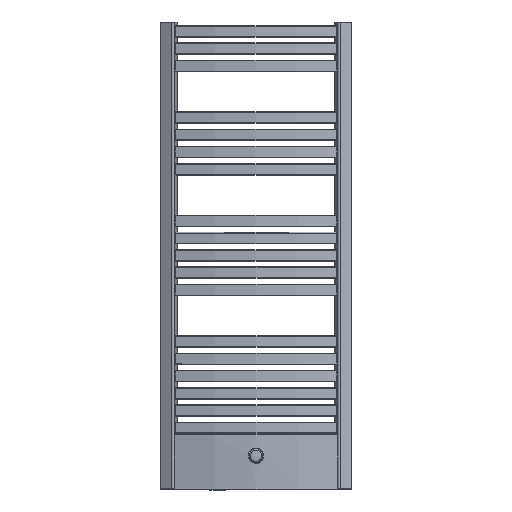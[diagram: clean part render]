
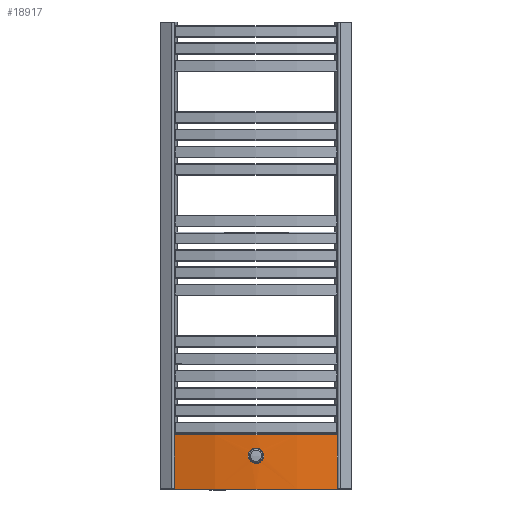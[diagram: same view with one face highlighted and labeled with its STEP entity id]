
A CAD part, front view. The second image highlights one B-rep face of the part: STEP entity #18917.
In plain terms, the highlighted cylindrical face has radius 741 mm (diameter 1482 mm), a partial arc.
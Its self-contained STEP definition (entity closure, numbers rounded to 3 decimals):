
#16507=CARTESIAN_POINT('',(212.002,-31.022,142.));
#16508=VERTEX_POINT('',#16507);
#16671=CARTESIAN_POINT('',(-212.004,-31.021,142.));
#16672=VERTEX_POINT('',#16671);
#16690=CARTESIAN_POINT('',(-212.004,-31.021,0.));
#16691=VERTEX_POINT('',#16690);
#16699=CARTESIAN_POINT('',(-212.004,-31.021,0.));
#16700=DIRECTION('',(0.0,0.0,1.0));
#16701=VECTOR('',#16700,142.);
#16702=LINE('',#16699,#16701);
#16703=EDGE_CURVE('',#16691,#16672,#16702,.T.);
#16714=CARTESIAN_POINT('',(212.002,-31.022,0.));
#16715=VERTEX_POINT('',#16714);
#16716=CARTESIAN_POINT('',(212.002,-31.022,0.));
#16717=DIRECTION('',(0.0,0.0,1.0));
#16718=VECTOR('',#16717,142.);
#16719=LINE('',#16716,#16718);
#16720=EDGE_CURVE('',#16715,#16508,#16719,.T.);
#16877=CARTESIAN_POINT('',(0.,679.004,142.));
#16878=DIRECTION('',(0.,0.,1.0));
#16879=DIRECTION('',(0.,-1.,0.));
#16880=AXIS2_PLACEMENT_3D('',#16877,#16878,#16879);
#16881=CIRCLE('',#16880,741.);
#16882=EDGE_CURVE('',#16672,#16508,#16881,.T.);
#17114=CARTESIAN_POINT('',(0.,679.004,0.));
#17115=DIRECTION('',(0.,0.,-1.0));
#17116=DIRECTION('',(0.,-1.,0.));
#17117=AXIS2_PLACEMENT_3D('',#17114,#17115,#17116);
#17118=CIRCLE('',#17117,741.);
#17119=EDGE_CURVE('',#16715,#16691,#17118,.T.);
#18833=CARTESIAN_POINT('',(0.,679.004,0.));
#18834=DIRECTION('',(0.,0.,1.0));
#18835=DIRECTION('',(0.286,-0.958,0.));
#18836=AXIS2_PLACEMENT_3D('',#18833,#18834,#18835);
#18837=CYLINDRICAL_SURFACE('',#18836,741.);
#18838=ORIENTED_EDGE('',*,*,#17119,.F.);
#18839=ORIENTED_EDGE('',*,*,#16720,.T.);
#18840=ORIENTED_EDGE('',*,*,#16882,.F.);
#18841=ORIENTED_EDGE('',*,*,#16703,.F.);
#18842=EDGE_LOOP('',(#18838,#18839,#18840,#18841));
#18843=FACE_OUTER_BOUND('',#18842,.T.);
#18844=CARTESIAN_POINT('',(-19.92,-61.728,87.5));
#18845=VERTEX_POINT('',#18844);
#18846=CARTESIAN_POINT('',(-19.92,-61.728,87.5));
#18847=CARTESIAN_POINT('',(-19.92,-61.728,88.751));
#18848=CARTESIAN_POINT('',(-19.8,-61.732,90.045));
#18849=CARTESIAN_POINT('',(-19.297,-61.745,92.619));
#18850=CARTESIAN_POINT('',(-18.913,-61.755,93.899));
#18851=CARTESIAN_POINT('',(-17.897,-61.78,96.355));
#18852=CARTESIAN_POINT('',(-17.265,-61.795,97.532));
#18853=CARTESIAN_POINT('',(-15.803,-61.828,99.71));
#18854=CARTESIAN_POINT('',(-14.974,-61.845,100.71));
#18855=CARTESIAN_POINT('',(-13.206,-61.879,102.481));
#18856=CARTESIAN_POINT('',(-12.206,-61.896,103.312));
#18857=CARTESIAN_POINT('',(-10.031,-61.929,104.777));
#18858=CARTESIAN_POINT('',(-8.854,-61.944,105.411));
#18859=CARTESIAN_POINT('',(-6.399,-61.97,106.429));
#18860=CARTESIAN_POINT('',(-5.119,-61.98,106.815));
#18861=CARTESIAN_POINT('',(-2.545,-61.993,107.32));
#18862=CARTESIAN_POINT('',(-1.251,-61.996,107.44));
#18863=CARTESIAN_POINT('',(1.251,-61.996,107.44));
#18864=CARTESIAN_POINT('',(2.545,-61.993,107.32));
#18865=CARTESIAN_POINT('',(5.119,-61.98,106.815));
#18866=CARTESIAN_POINT('',(6.399,-61.97,106.429));
#18867=CARTESIAN_POINT('',(8.854,-61.944,105.411));
#18868=CARTESIAN_POINT('',(10.031,-61.929,104.777));
#18869=CARTESIAN_POINT('',(12.206,-61.896,103.312));
#18870=CARTESIAN_POINT('',(13.206,-61.879,102.481));
#18871=CARTESIAN_POINT('',(14.974,-61.845,100.71));
#18872=CARTESIAN_POINT('',(15.803,-61.828,99.71));
#18873=CARTESIAN_POINT('',(17.265,-61.795,97.532));
#18874=CARTESIAN_POINT('',(17.897,-61.78,96.355));
#18875=CARTESIAN_POINT('',(18.913,-61.755,93.899));
#18876=CARTESIAN_POINT('',(19.297,-61.745,92.619));
#18877=CARTESIAN_POINT('',(19.8,-61.732,90.045));
#18878=CARTESIAN_POINT('',(19.92,-61.728,88.751));
#18879=CARTESIAN_POINT('',(19.92,-61.728,86.249));
#18880=CARTESIAN_POINT('',(19.8,-61.732,84.955));
#18881=CARTESIAN_POINT('',(19.297,-61.745,82.381));
#18882=CARTESIAN_POINT('',(18.913,-61.755,81.101));
#18883=CARTESIAN_POINT('',(17.897,-61.78,78.645));
#18884=CARTESIAN_POINT('',(17.265,-61.795,77.468));
#18885=CARTESIAN_POINT('',(15.803,-61.828,75.29));
#18886=CARTESIAN_POINT('',(14.974,-61.845,74.29));
#18887=CARTESIAN_POINT('',(13.206,-61.879,72.519));
#18888=CARTESIAN_POINT('',(12.206,-61.896,71.688));
#18889=CARTESIAN_POINT('',(10.031,-61.929,70.223));
#18890=CARTESIAN_POINT('',(8.854,-61.944,69.589));
#18891=CARTESIAN_POINT('',(6.399,-61.97,68.571));
#18892=CARTESIAN_POINT('',(5.119,-61.98,68.185));
#18893=CARTESIAN_POINT('',(2.545,-61.993,67.68));
#18894=CARTESIAN_POINT('',(1.251,-61.996,67.56));
#18895=CARTESIAN_POINT('',(-1.251,-61.996,67.56));
#18896=CARTESIAN_POINT('',(-2.545,-61.993,67.68));
#18897=CARTESIAN_POINT('',(-5.119,-61.98,68.185));
#18898=CARTESIAN_POINT('',(-6.399,-61.97,68.571));
#18899=CARTESIAN_POINT('',(-8.854,-61.944,69.589));
#18900=CARTESIAN_POINT('',(-10.031,-61.929,70.223));
#18901=CARTESIAN_POINT('',(-12.206,-61.896,71.688));
#18902=CARTESIAN_POINT('',(-13.206,-61.879,72.519));
#18903=CARTESIAN_POINT('',(-14.974,-61.845,74.29));
#18904=CARTESIAN_POINT('',(-15.803,-61.828,75.29));
#18905=CARTESIAN_POINT('',(-17.265,-61.795,77.468));
#18906=CARTESIAN_POINT('',(-17.897,-61.78,78.645));
#18907=CARTESIAN_POINT('',(-18.913,-61.755,81.101));
#18908=CARTESIAN_POINT('',(-19.297,-61.745,82.381));
#18909=CARTESIAN_POINT('',(-19.8,-61.732,84.955));
#18910=CARTESIAN_POINT('',(-19.92,-61.728,86.249));
#18911=CARTESIAN_POINT('',(-19.92,-61.728,87.5));
#18912=B_SPLINE_CURVE_WITH_KNOTS('',3,(#18846,#18847,#18848,#18849,#18850,#18851,#18852,#18853,#18854,#18855,#18856,#18857,#18858,#18859,#18860,#18861,#18862,#18863,#18864,#18865,#18866,#18867,#18868,#18869,#18870,#18871,#18872,#18873,#18874,#18875,#18876,#18877,#18878,#18879,#18880,#18881,#18882,#18883,#18884,#18885,#18886,#18887,#18888,#18889,#18890,#18891,#18892,#18893,#18894,#18895,#18896,#18897,#18898,#18899,#18900,#18901,#18902,#18903,#18904,#18905,#18906,#18907,#18908,#18909,#18910,#18911),.UNSPECIFIED.,.T.,.U.,(4,2,2,2,2,2,2,2,2,2,2,2,2,2,2,2,2,2,2,2,2,2,2,2,2,2,2,2,2,2,2,2,4),(0.0,0.375,0.751,1.126,1.501,1.877,2.252,2.628,3.003,3.378,3.754,4.129,4.505,4.88,5.255,5.631,6.006,6.381,6.757,7.132,7.507,7.883,8.258,8.634,9.009,9.385,9.76,10.135,10.511,10.886,11.262,11.637,12.012),.UNSPECIFIED.);
#18913=EDGE_CURVE('',#18845,#18845,#18912,.T.);
#18914=ORIENTED_EDGE('',*,*,#18913,.T.);
#18915=EDGE_LOOP('',(#18914));
#18916=FACE_BOUND('',#18915,.T.);
#18917=ADVANCED_FACE('',(#18843,#18916),#18837,.T.);
